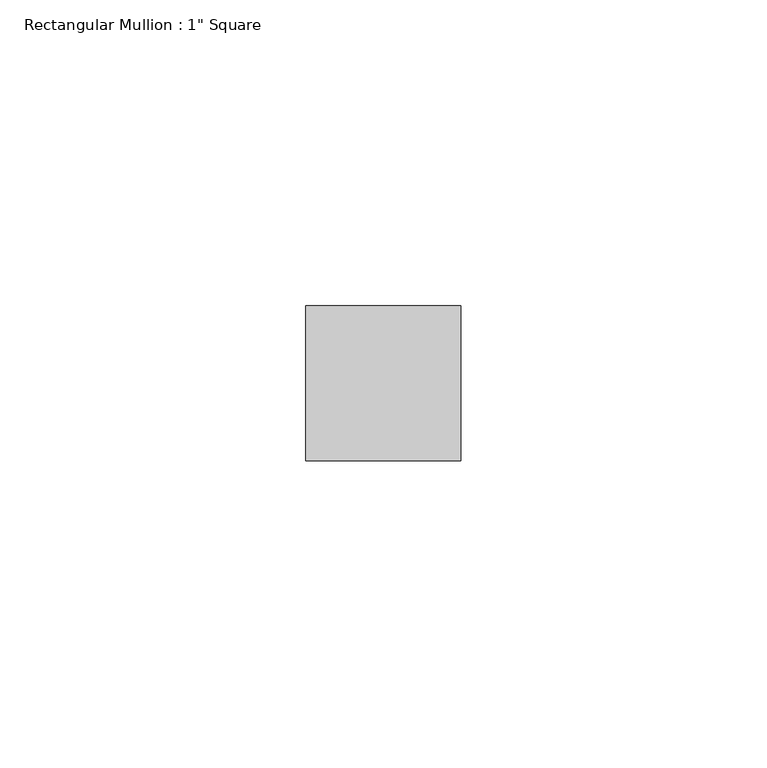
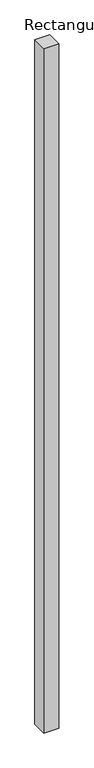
"""IFC4 building model written with IfcOpenShell, lengths in millimetres: member geometry."""

from ifc_helpers import new_model, si_unit, frame, origin, place, context, project, spatial, polyline, outline, extrude, source, transform, mapped, element, save


def member_dae2b504(model_context):
    return source(origin(), model_context, "Body", "SweptSolid", [
        extrude(outline(polyline([(12.7, 12.7), (12.7, -12.7), (-12.7, -12.7), (-12.7, 12.7), (12.7, 12.7)])), frame((0.0, 0.0, -1218.1455548), z_axis=(0.0, 0.0, 1.0), x_axis=(1.0, 0.0, 0.0)), (0.0, 0.0, 1.0), 1218.1455548),
    ])


if __name__ == "__main__":
    model = new_model("IFC4")
    model_context = context("Model", 3, world=origin())
    ifc_project = project(units=[si_unit("LENGTHUNIT", "METRE", prefix="MILLI")], contexts=[model_context])
    site = spatial("IfcSite", under=ifc_project)
    building = spatial("IfcBuilding", under=site)
    placement = place(None, origin())
    member_shape = member_dae2b504(model_context)
    element("IfcMember", 1, ObjectType="Rectangular Mullion : 1\" Square", at=placement, inside=building, context=model_context, shape_type="MappedRepresentation", body=[
        mapped(member_shape, transform((0.0, 0.0, 0.0), x_axis=(1.0, 0.0, 0.0), y_axis=(0.0, 1.0, 0.0), z_axis=(0.0, 0.0, 1.0))),
    ])
    save(model, "model.ifc")
